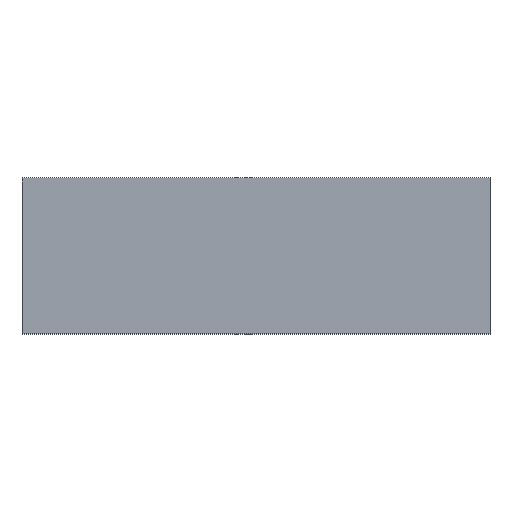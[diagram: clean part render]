
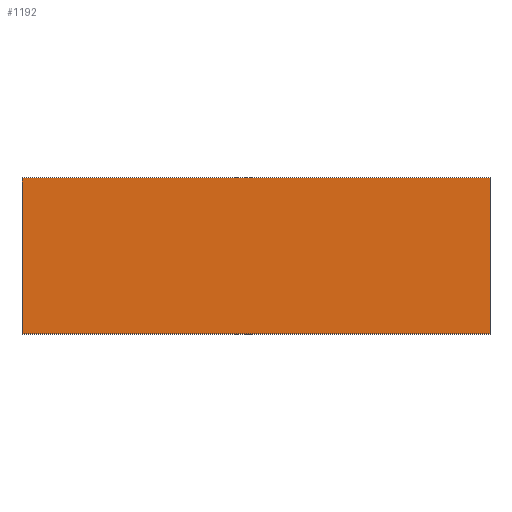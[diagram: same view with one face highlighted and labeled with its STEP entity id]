
A CAD part, top view. The second image highlights one B-rep face of the part: STEP entity #1192.
In plain terms, the highlighted planar face has unit normal (0, 0, 1).
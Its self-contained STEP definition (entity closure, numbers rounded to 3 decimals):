
#152=ORIENTED_EDGE('',*,*,#458,.T.);
#153=ORIENTED_EDGE('',*,*,#462,.T.);
#154=ORIENTED_EDGE('',*,*,#465,.T.);
#155=ORIENTED_EDGE('',*,*,#467,.T.);
#458=EDGE_CURVE('',#611,#610,#738,.T.);
#462=EDGE_CURVE('',#610,#613,#742,.T.);
#465=EDGE_CURVE('',#613,#615,#745,.T.);
#467=EDGE_CURVE('',#615,#611,#747,.T.);
#610=VERTEX_POINT('',#1813);
#611=VERTEX_POINT('',#1815);
#613=VERTEX_POINT('',#1821);
#615=VERTEX_POINT('',#1827);
#738=LINE('',#1814,#906);
#742=LINE('',#1822,#910);
#745=LINE('',#1828,#913);
#747=LINE('',#1831,#915);
#906=VECTOR('',#1450,1000.);
#910=VECTOR('',#1456,1000.);
#913=VECTOR('',#1461,1000.);
#915=VECTOR('',#1465,1000.);
#997=EDGE_LOOP('',(#152,#153,#154,#155));
#1065=FACE_BOUND('',#997,.T.);
#1129=PLANE('',#1268);
#1192=ADVANCED_FACE('',(#1065),#1129,.T.);
#1268=AXIS2_PLACEMENT_3D('',#1832,#1466,#1467);
#1450=DIRECTION('',(-1.,0.,0.));
#1456=DIRECTION('',(0.,-1.,0.));
#1461=DIRECTION('',(1.,0.,0.));
#1465=DIRECTION('',(0.,1.,0.));
#1466=DIRECTION('',(0.,0.,1.));
#1467=DIRECTION('',(1.,0.,0.));
#1813=CARTESIAN_POINT('',(-45.,15.,5.));
#1814=CARTESIAN_POINT('',(45.,15.,5.));
#1815=CARTESIAN_POINT('',(45.,15.,5.));
#1821=CARTESIAN_POINT('',(-45.,-15.,5.));
#1822=CARTESIAN_POINT('',(-45.,15.,5.));
#1827=CARTESIAN_POINT('',(45.,-15.,5.));
#1828=CARTESIAN_POINT('',(-45.,-15.,5.));
#1831=CARTESIAN_POINT('',(45.,-15.,5.));
#1832=CARTESIAN_POINT('',(0.,0.,5.));
